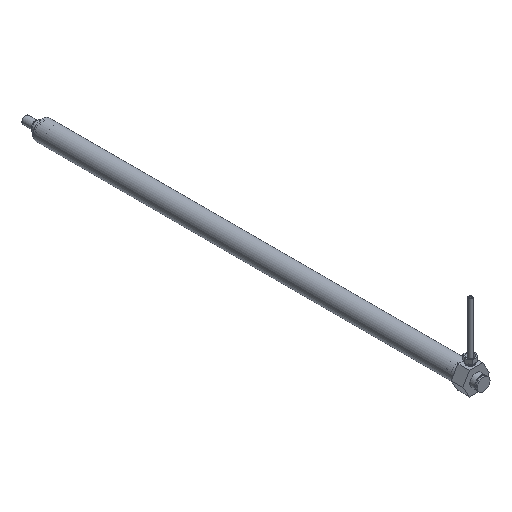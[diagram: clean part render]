
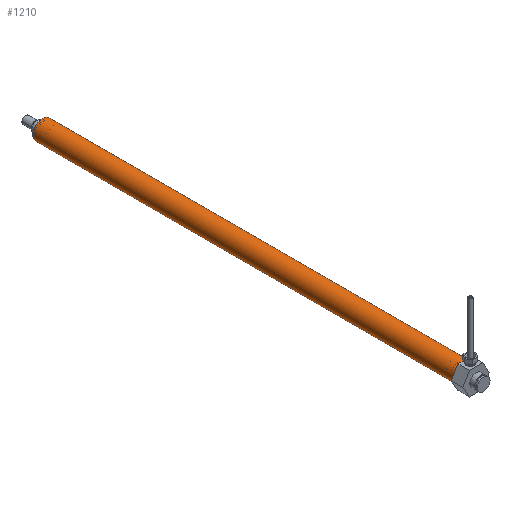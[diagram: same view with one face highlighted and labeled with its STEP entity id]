
A CAD part, isometric view. The second image highlights one B-rep face of the part: STEP entity #1210.
In plain terms, the highlighted cylindrical face has radius 10 mm (diameter 20 mm), a full revolution.
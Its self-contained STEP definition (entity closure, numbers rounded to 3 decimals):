
#221=CYLINDRICAL_SURFACE('',#1927,10.);
#259=ORIENTED_EDGE('',*,*,#523,.F.);
#260=ORIENTED_EDGE('',*,*,#522,.T.);
#522=EDGE_CURVE('',#656,#656,#772,.T.);
#523=EDGE_CURVE('',#657,#657,#773,.T.);
#656=VERTEX_POINT('',#2540);
#657=VERTEX_POINT('',#2543);
#772=CIRCLE('',#1926,10.);
#773=CIRCLE('',#1928,10.);
#859=EDGE_LOOP('',(#259));
#860=EDGE_LOOP('',(#260));
#1033=FACE_BOUND('',#859,.T.);
#1034=FACE_BOUND('',#860,.T.);
#1210=ADVANCED_FACE('',(#1033,#1034),#221,.T.);
#1926=AXIS2_PLACEMENT_3D('',#2539,#2127,#2128);
#1927=AXIS2_PLACEMENT_3D('',#2541,#2129,#2130);
#1928=AXIS2_PLACEMENT_3D('',#2542,#2131,#2132);
#2127=DIRECTION('',(-1.,0.,0.));
#2128=DIRECTION('',(0.,0.,1.));
#2129=DIRECTION('',(-1.,0.,0.));
#2130=DIRECTION('',(0.,0.,1.));
#2131=DIRECTION('',(-1.,0.,0.));
#2132=DIRECTION('',(0.,0.,1.));
#2539=CARTESIAN_POINT('',(440.,0.,0.));
#2540=CARTESIAN_POINT('',(440.,0.,10.));
#2541=CARTESIAN_POINT('',(-60.,0.,0.));
#2542=CARTESIAN_POINT('',(0.,0.,0.));
#2543=CARTESIAN_POINT('',(0.,0.,10.));
